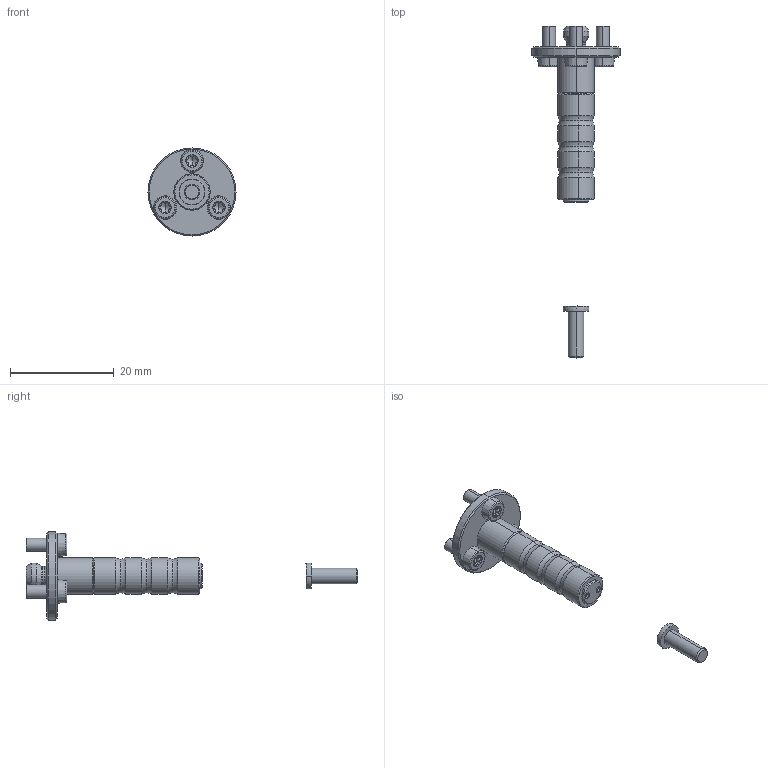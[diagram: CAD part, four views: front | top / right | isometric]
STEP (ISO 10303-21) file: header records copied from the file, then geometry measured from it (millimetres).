
FILE_DESCRIPTION (( 'STEP AP203' ), '1' );
FILE_NAME ('Asyril_ROBOT CALIBRATION TOOL KIT - 240_000.102.221_(option)--.step', '2018-07-19T07:13:02', ( 'Standard' ), ( '' ), 'SwSTEP 2.0', 'SolidWorks 2016', '' );
FILE_SCHEMA (( 'CONFIG_CONTROL_DESIGN' ));
Length unit declared in the file: millimetre
Products named in the file (3): Asyril_ROBOT CALIBRATION PIN - 240_000.102.061_(option); Asyril_ROBOT CALIBRATION TOOL_000.102.067_(option); Asyril_ROBOT CALIBRATION TOOL KIT - 240_000.102.221_(option)--
Assembly tree (2 placements, depth 2):
  Asyril_ROBOT CALIBRATION TOOL KIT - 240_000.102.221_(option)--
    Asyril_ROBOT CALIBRATION TOOL_000.102.067_(option)
    Asyril_ROBOT CALIBRATION PIN - 240_000.102.061_(option)
Bounding box: 17 x 64 x 17 mm (x, y, z)
Volume: 1757.6 mm3; surface area: 1699.8 mm2
Topology: 5 solids, 5 shells, 216 faces, 505 edges, 304 vertices
Faces by surface type: cylinder 87, cone 61, plane 38, torus 28, sphere 2
Entity records: 6765 total; most frequent: CARTESIAN_POINT 1646, DIRECTION 1048, ORIENTED_EDGE 988, EDGE_CURVE 494, AXIS2_PLACEMENT_3D 459, VERTEX_POINT 301, CIRCLE 238, EDGE_LOOP 235
